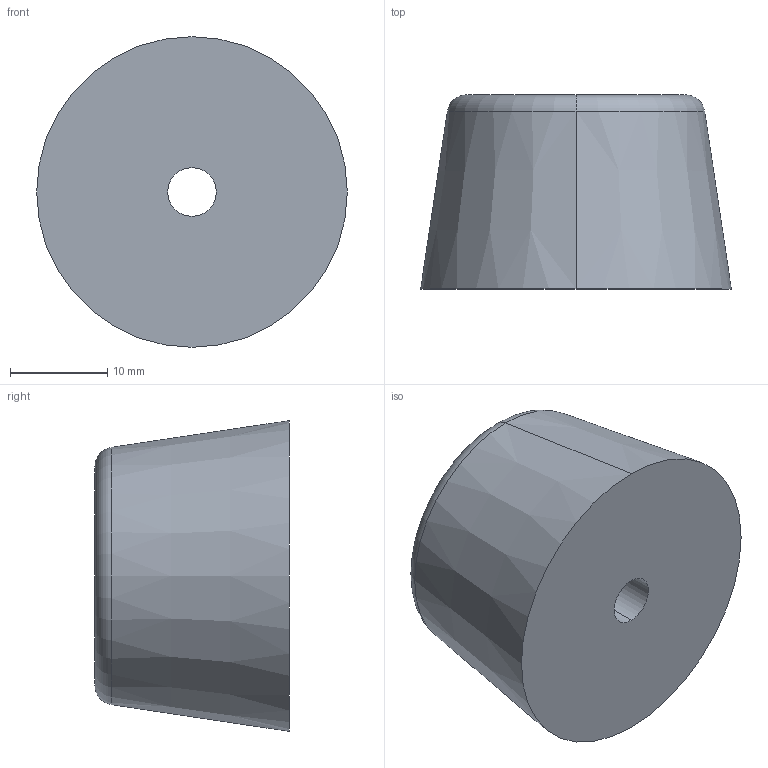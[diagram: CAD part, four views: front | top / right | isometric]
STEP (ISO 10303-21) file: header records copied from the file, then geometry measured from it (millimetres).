
FILE_DESCRIPTION (( 'STEP AP203' ), '1' );
FILE_NAME ('K-3220.STEP', '2013-07-15T06:46:38', ( 'SDS' ), ( 'SDS' ), 'SwSTEP 2.0', 'SolidWorks 2002296', '' );
FILE_SCHEMA (( 'CONFIG_CONTROL_DESIGN' ));
Length unit declared in the file: millimetre
Products named in the file (1): K-3220
Bounding box: 32 x 20 x 32 mm (x, y, z)
Volume: 11246.2 mm3; surface area: 3716.2 mm2
Topology: 1 solids, 1 shells, 11 faces, 22 edges, 14 vertices
Faces by surface type: cylinder 4, plane 3, cone 2, torus 2
Entity records: 377 total; most frequent: DIRECTION 62, CARTESIAN_POINT 48, ORIENTED_EDGE 44, AXIS2_PLACEMENT_3D 28, EDGE_CURVE 22, CIRCLE 16, EDGE_LOOP 14, VERTEX_POINT 14
